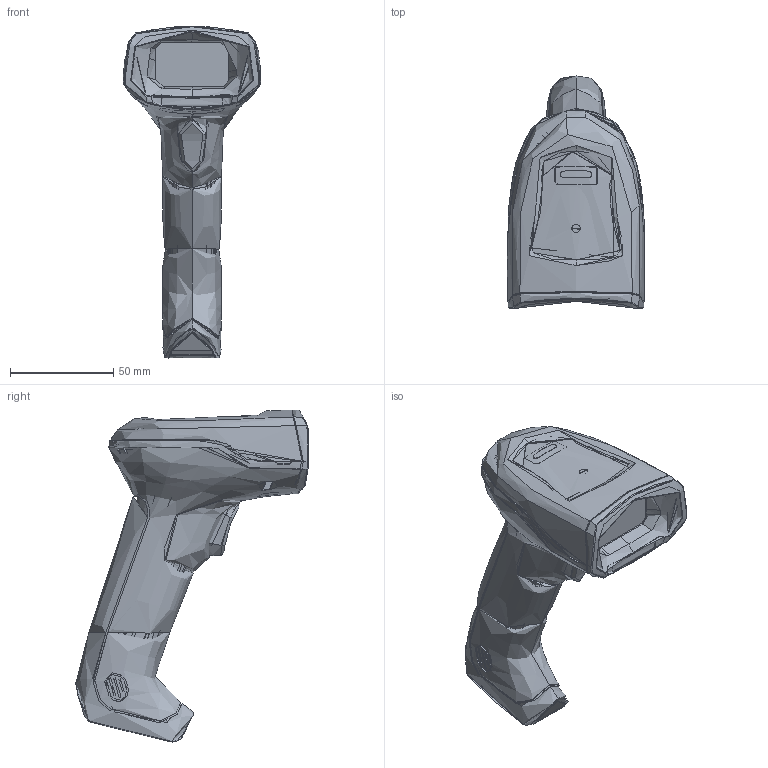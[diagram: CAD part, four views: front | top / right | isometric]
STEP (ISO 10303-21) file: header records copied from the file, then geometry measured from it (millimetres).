
FILE_DESCRIPTION(/* description */ (''),/* implementation_level */ '2;1');
FILE_NAME(/* name */ 'IDH2000P',/* time_stamp */ '2025-04-15T15:25:15+08:00',/* author */ (''),/* organization */ (''),/* preprocessor_version */ 'ST-DEVELOPER v16.5',/* originating_system */ '',/* authorisation */ '');
FILE_SCHEMA (('CONFIG_CONTROL_DESIGN'));
Products named in the file (3): Document; SC-PB3_12B_SUS_JMP; SC-PB3X8-BNI-SUS-50
Assembly tree (4 placements, depth 2):
  Document
    SC-PB3_12B_SUS_JMP  x2
    SC-PB3X8-BNI-SUS-50  x2
Bounding box: 66.5 x 112.35 x 160.41 mm (x, y, z)
Volume: 14834.4 mm3; surface area: 115403.3 mm2
Topology: 10 solids, 32 shells, 4696 faces, 13582 edges, 8990 vertices
Faces by surface type: bspline 2060, plane 2043, cylinder 593
Entity records: 345314 total; most frequent: CARTESIAN_POINT 260465, ORIENTED_EDGE 26436, EDGE_CURVE 13342, B_SPLINE_CURVE_WITH_KNOTS 12668, VERTEX_POINT 8846, EDGE_LOOP 4758, ADVANCED_FACE 4596, FACE_OUTER_BOUND 4596
